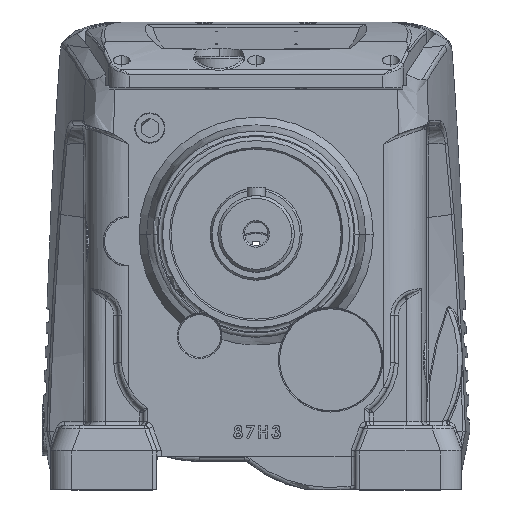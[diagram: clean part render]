
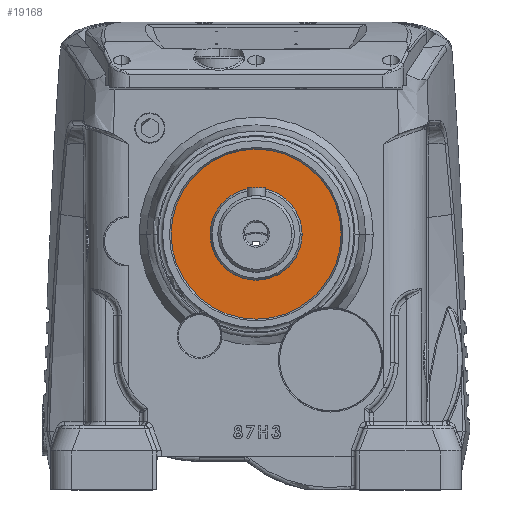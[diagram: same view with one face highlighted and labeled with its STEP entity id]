
A CAD part, top view. The second image highlights one B-rep face of the part: STEP entity #19168.
In plain terms, the highlighted planar face has unit normal (0, 0, 1).
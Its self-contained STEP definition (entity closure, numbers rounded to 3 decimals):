
#897 = ORIENTED_EDGE ( 'NONE', *, *, #75057, .F. ) ;
#900 = ORIENTED_EDGE ( 'NONE', *, *, #75064, .T. ) ;
#915 = ORIENTED_EDGE ( 'NONE', *, *, #75058, .F. ) ;
#918 = ORIENTED_EDGE ( 'NONE', *, *, #75056, .T. ) ;
#7959 = VERTEX_POINT ( 'NONE', #45399 ) ;
#9826 = EDGE_LOOP ( 'NONE', ( #897, #915 ) ) ;
#9860 = EDGE_LOOP ( 'NONE', ( #900, #918 ) ) ;
#10827 = AXIS2_PLACEMENT_3D ( 'NONE', #36197, #36196, #36154 ) ;
#16463 = VERTEX_POINT ( 'NONE', #42997 ) ;
#16836 = VERTEX_POINT ( 'NONE', #42239 ) ;
#16979 = VERTEX_POINT ( 'NONE', #42379 ) ;
#19168 = ADVANCED_FACE ( 'NONE', ( #39561, #39498 ), #36199, .F. ) ;
#36154 = DIRECTION ( 'NONE',  ( -1., 0., 0. ) ) ;
#36196 = DIRECTION ( 'NONE',  ( 0., 0., -1. ) ) ;
#36197 = CARTESIAN_POINT ( 'NONE',  ( 0., 220., 48.5 ) ) ;
#36199 = PLANE ( 'NONE',  #10827 ) ;
#39498 = FACE_OUTER_BOUND ( 'NONE', #9860, .T. ) ;
#39561 = FACE_BOUND ( 'NONE', #9826, .T. ) ;
#42239 = CARTESIAN_POINT ( 'NONE',  ( 60., 160., 48.5 ) ) ;
#42379 = CARTESIAN_POINT ( 'NONE',  ( 32.5, 160., 48.5 ) ) ;
#42997 = CARTESIAN_POINT ( 'NONE',  ( -32.5, 160., 48.5 ) ) ;
#45399 = CARTESIAN_POINT ( 'NONE',  ( -60., 160., 48.5 ) ) ;
#53695 = CARTESIAN_POINT ( 'NONE',  ( 0., 160., 48.5 ) ) ;
#53696 = DIRECTION ( 'NONE',  ( 0., 0., 1. ) ) ;
#53698 = DIRECTION ( 'NONE',  ( 1., 0., 0. ) ) ;
#53701 = CARTESIAN_POINT ( 'NONE',  ( 0., 160., 48.5 ) ) ;
#53703 = DIRECTION ( 'NONE',  ( 0., 0., 1. ) ) ;
#53705 = DIRECTION ( 'NONE',  ( 1., 0., 0. ) ) ;
#53707 = CARTESIAN_POINT ( 'NONE',  ( 0., 160., 48.5 ) ) ;
#53709 = DIRECTION ( 'NONE',  ( 0., 0., 1. ) ) ;
#53711 = DIRECTION ( 'NONE',  ( 1., 0., 0. ) ) ;
#53743 = CARTESIAN_POINT ( 'NONE',  ( 0., 160., 48.5 ) ) ;
#53745 = DIRECTION ( 'NONE',  ( 0., 0., 1. ) ) ;
#53747 = DIRECTION ( 'NONE',  ( 1., 0., 0. ) ) ;
#55224 = CIRCLE ( 'NONE', #55226, 60. ) ;
#55225 = AXIS2_PLACEMENT_3D ( 'NONE', #53701, #53703, #53705 ) ;
#55226 = AXIS2_PLACEMENT_3D ( 'NONE', #53695, #53696, #53698 ) ;
#55227 = CIRCLE ( 'NONE', #55225, 32.5 ) ;
#55228 = CIRCLE ( 'NONE', #55229, 32.5 ) ;
#55229 = AXIS2_PLACEMENT_3D ( 'NONE', #53707, #53709, #53711 ) ;
#55230 = CIRCLE ( 'NONE', #55236, 60. ) ;
#55236 = AXIS2_PLACEMENT_3D ( 'NONE', #53743, #53745, #53747 ) ;
#75056 = EDGE_CURVE ( 'NONE', #7959, #16836, #55224, .T. ) ;
#75057 = EDGE_CURVE ( 'NONE', #16979, #16463, #55227, .T. ) ;
#75058 = EDGE_CURVE ( 'NONE', #16463, #16979, #55228, .T. ) ;
#75064 = EDGE_CURVE ( 'NONE', #16836, #7959, #55230, .T. ) ;
